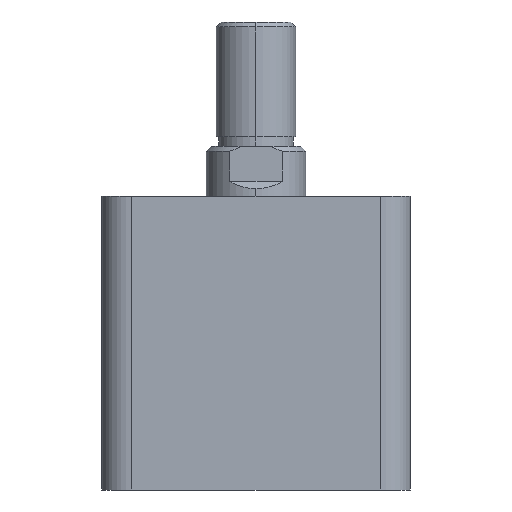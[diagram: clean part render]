
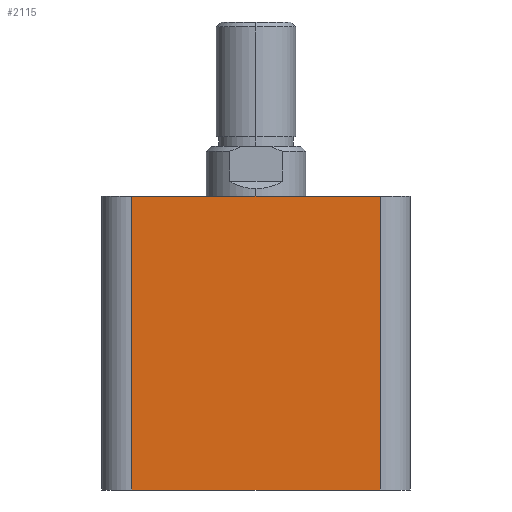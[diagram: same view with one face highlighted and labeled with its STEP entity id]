
A CAD part, left-side view. The second image highlights one B-rep face of the part: STEP entity #2115.
In plain terms, the highlighted planar face has unit normal (-1, 0, 0).
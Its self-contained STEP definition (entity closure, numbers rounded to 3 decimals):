
#378 = CARTESIAN_POINT ( 'NONE',  ( -31., -25., 59. ) ) ;
#379 = DIRECTION ( 'NONE',  ( 0., 0., 1. ) ) ;
#565 = CARTESIAN_POINT ( 'NONE',  ( -31., 31., 59. ) ) ;
#567 = DIRECTION ( 'NONE',  ( 0., -1., 0. ) ) ;
#751 = VERTEX_POINT ( 'NONE', #2932 ) ;
#752 = VERTEX_POINT ( 'NONE', #2931 ) ;
#803 = VERTEX_POINT ( 'NONE', #2989 ) ;
#834 = VERTEX_POINT ( 'NONE', #2979 ) ;
#899 = CARTESIAN_POINT ( 'NONE',  ( -31., 25., 59. ) ) ;
#900 = DIRECTION ( 'NONE',  ( 0., 0., -1. ) ) ;
#1382 = LINE ( 'NONE', #899, #1384 ) ;
#1384 = VECTOR ( 'NONE', #900, 1000. ) ;
#1621 = LINE ( 'NONE', #378, #1624 ) ;
#1624 = VECTOR ( 'NONE', #379, 1000. ) ;
#1703 = LINE ( 'NONE', #565, #1704 ) ;
#1704 = VECTOR ( 'NONE', #567, 1000. ) ;
#2115 = ADVANCED_FACE ( 'NONE', ( #4083 ), #2280, .F. ) ;
#2278 = CARTESIAN_POINT ( 'NONE',  ( -31., 31., 59. ) ) ;
#2280 = PLANE ( 'NONE',  #3205 ) ;
#2282 = DIRECTION ( 'NONE',  ( 1., 0., 0. ) ) ;
#2283 = DIRECTION ( 'NONE',  ( 0., 0., -1. ) ) ;
#2447 = DIRECTION ( 'NONE',  ( 0., -1., 0. ) ) ;
#2449 = CARTESIAN_POINT ( 'NONE',  ( -31., 31., 0. ) ) ;
#2744 = EDGE_CURVE ( 'NONE', #752, #751, #5176, .T. ) ;
#2931 = CARTESIAN_POINT ( 'NONE',  ( -31., 25., 0. ) ) ;
#2932 = CARTESIAN_POINT ( 'NONE',  ( -31., -25., 0. ) ) ;
#2979 = CARTESIAN_POINT ( 'NONE',  ( -31., 25., 59. ) ) ;
#2989 = CARTESIAN_POINT ( 'NONE',  ( -31., -25., 59. ) ) ;
#3205 = AXIS2_PLACEMENT_3D ( 'NONE', #2278, #2282, #2283 ) ;
#3413 = EDGE_CURVE ( 'NONE', #834, #752, #1382, .T. ) ;
#3565 = EDGE_CURVE ( 'NONE', #751, #803, #1621, .T. ) ;
#3625 = EDGE_CURVE ( 'NONE', #834, #803, #1703, .T. ) ;
#4083 = FACE_OUTER_BOUND ( 'NONE', #4983, .T. ) ;
#4570 = ORIENTED_EDGE ( 'NONE', *, *, #2744, .T. ) ;
#4571 = ORIENTED_EDGE ( 'NONE', *, *, #3565, .T. ) ;
#4572 = ORIENTED_EDGE ( 'NONE', *, *, #3625, .F. ) ;
#4573 = ORIENTED_EDGE ( 'NONE', *, *, #3413, .T. ) ;
#4983 = EDGE_LOOP ( 'NONE', ( #4570, #4571, #4572, #4573 ) ) ;
#5172 = VECTOR ( 'NONE', #2447, 1000. ) ;
#5176 = LINE ( 'NONE', #2449, #5172 ) ;
